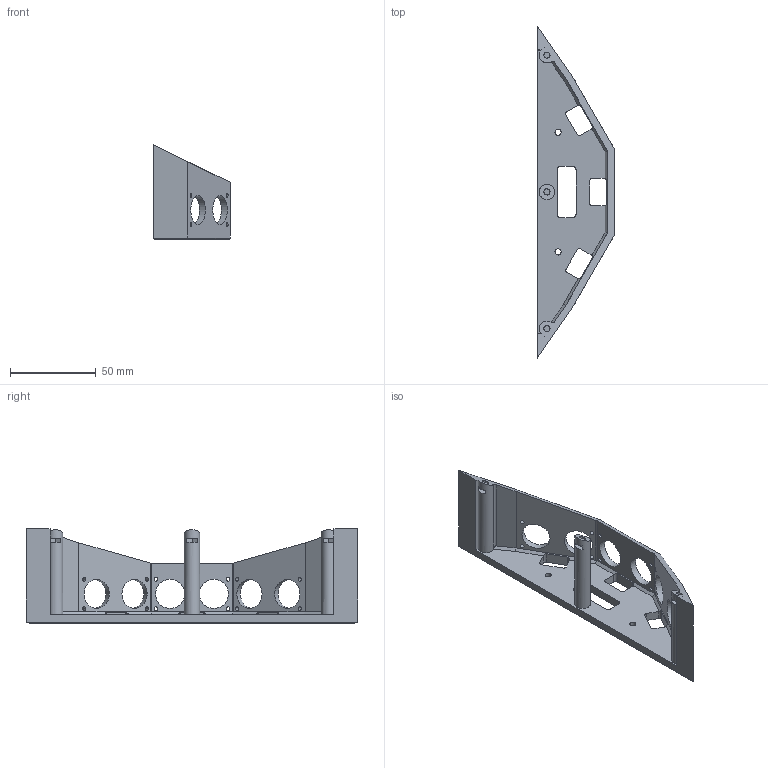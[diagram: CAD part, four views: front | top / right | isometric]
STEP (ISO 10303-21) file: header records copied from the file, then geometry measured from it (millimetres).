
FILE_DESCRIPTION(/* description */ ('STEP AP242 Edition 2','CAx-IF Rec.Pracs.---Representation and Presentation of Product Manufacturing Information (PMI)---4.0---2014-10-13','CAx-IF Rec.Pracs.---3D Tessellated Geometry---0.4---2014-09-14','2;1','CAx-IF Rec.Pracs.---User Defined Attributes---1.5---2016-08-15'),/* implementation_level */ '2;1');
FILE_NAME(/* name */ 'Chassis No Suspension - nose',/* time_stamp */ '2026-10-25T14:46:20Z',/* author */ (''),/* organization */ (''),/* preprocessor_version */ 'ST-DEVELOPER v20',/* originating_system */ 'ONSHAPE BY PTC INC, 1.222',/* authorisation */ ' ');
FILE_SCHEMA (('AP242_MANAGED_MODEL_BASED_3D_ENGINEERING_MIM_LF { 1 0 10303 442 3 1 4 }'));
Length unit declared in the file: metre
Products named in the file (1): nose
Bounding box: 45 x 194 x 55 mm (x, y, z)
Volume: 57735.7 mm3; surface area: 30506.1 mm2
Topology: 1 solids, 1 shells, 124 faces, 342 edges, 226 vertices
Faces by surface type: plane 71, cylinder 53
Full cylindrical faces by diameter (mm): 2.2 x12, 3.6 x8, 9 x1, 17 x6
Entity records: 4096 total; most frequent: CARTESIAN_POINT 741, ORIENTED_EDGE 684, DIRECTION 684, EDGE_CURVE 342, AXIS2_PLACEMENT_3D 237, VERTEX_POINT 226, LINE 210, VECTOR 210
